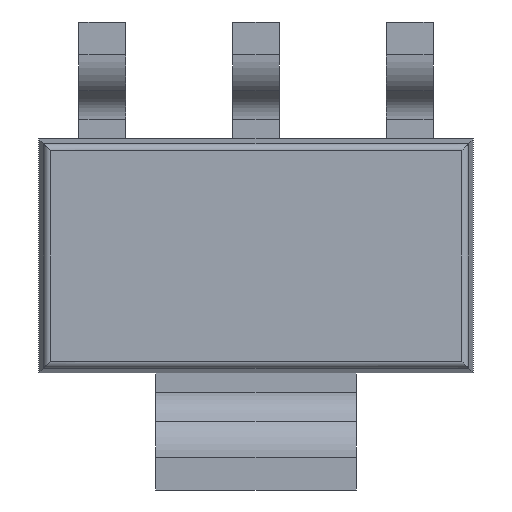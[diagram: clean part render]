
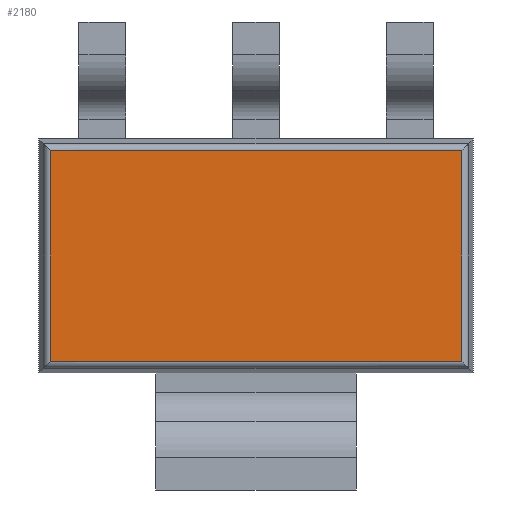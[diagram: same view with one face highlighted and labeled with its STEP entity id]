
A CAD part, front view. The second image highlights one B-rep face of the part: STEP entity #2180.
In plain terms, the highlighted planar face has unit normal (0, -1, 0).
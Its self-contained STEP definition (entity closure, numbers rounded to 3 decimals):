
#2141 = CARTESIAN_POINT ( 'NONE',  ( 3.078, 0.1, -1.578 ) ) ;
#2142 = VERTEX_POINT ( 'NONE', #2141 ) ;
#2143 = CARTESIAN_POINT ( 'NONE',  ( 3.078, 0.1, 1.578 ) ) ;
#2144 = VERTEX_POINT ( 'NONE', #2143 ) ;
#2145 = CARTESIAN_POINT ( 'NONE',  ( 3.078, 0.1, 0. ) ) ;
#2146 = DIRECTION ( 'NONE',  ( 0., 0., 1. ) ) ;
#2147 = VECTOR ( 'NONE', #2146, 1000. ) ;
#2148 = LINE ( 'NONE', #2145, #2147 ) ;
#2149 = EDGE_CURVE ( 'NONE', #2142, #2144, #2148, .T. ) ;
#2150 = ORIENTED_EDGE ( 'NONE', *, *, #2149, .T. ) ;
#2151 = CARTESIAN_POINT ( 'NONE',  ( -3.078, 0.1, 1.578 ) ) ;
#2152 = VERTEX_POINT ( 'NONE', #2151 ) ;
#2153 = CARTESIAN_POINT ( 'NONE',  ( 0., 0.1, 1.578 ) ) ;
#2154 = DIRECTION ( 'NONE',  ( -1., 0., 0. ) ) ;
#2155 = VECTOR ( 'NONE', #2154, 1000. ) ;
#2156 = LINE ( 'NONE', #2153, #2155 ) ;
#2157 = EDGE_CURVE ( 'NONE', #2144, #2152, #2156, .T. ) ;
#2158 = ORIENTED_EDGE ( 'NONE', *, *, #2157, .T. ) ;
#2159 = CARTESIAN_POINT ( 'NONE',  ( -3.078, 0.1, -1.578 ) ) ;
#2160 = VERTEX_POINT ( 'NONE', #2159 ) ;
#2161 = CARTESIAN_POINT ( 'NONE',  ( -3.078, 0.1, 0. ) ) ;
#2162 = DIRECTION ( 'NONE',  ( 0., 0., -1. ) ) ;
#2163 = VECTOR ( 'NONE', #2162, 1000. ) ;
#2164 = LINE ( 'NONE', #2161, #2163 ) ;
#2165 = EDGE_CURVE ( 'NONE', #2152, #2160, #2164, .T. ) ;
#2166 = ORIENTED_EDGE ( 'NONE', *, *, #2165, .T. ) ;
#2167 = CARTESIAN_POINT ( 'NONE',  ( 0., 0.1, -1.578 ) ) ;
#2168 = DIRECTION ( 'NONE',  ( 1., 0., 0. ) ) ;
#2169 = VECTOR ( 'NONE', #2168, 1000. ) ;
#2170 = LINE ( 'NONE', #2167, #2169 ) ;
#2171 = EDGE_CURVE ( 'NONE', #2160, #2142, #2170, .T. ) ;
#2172 = ORIENTED_EDGE ( 'NONE', *, *, #2171, .T. ) ;
#2173 = EDGE_LOOP ( 'NONE', ( #2150, #2158, #2166, #2172 ) ) ;
#2174 = FACE_OUTER_BOUND ( 'NONE', #2173, .T. ) ;
#2175 = CARTESIAN_POINT ( 'NONE',  ( 0., 0.1, 0. ) ) ;
#2176 = DIRECTION ( 'NONE',  ( 0., -1., 0. ) ) ;
#2177 = DIRECTION ( 'NONE',  ( 0., 0., -1. ) ) ;
#2178 = AXIS2_PLACEMENT_3D ( 'NONE', #2175, #2176, #2177 ) ;
#2179 = PLANE ( 'NONE', #2178 ) ;
#2180 = ADVANCED_FACE ( 'NONE', ( #2174 ), #2179, .T. ) ;
